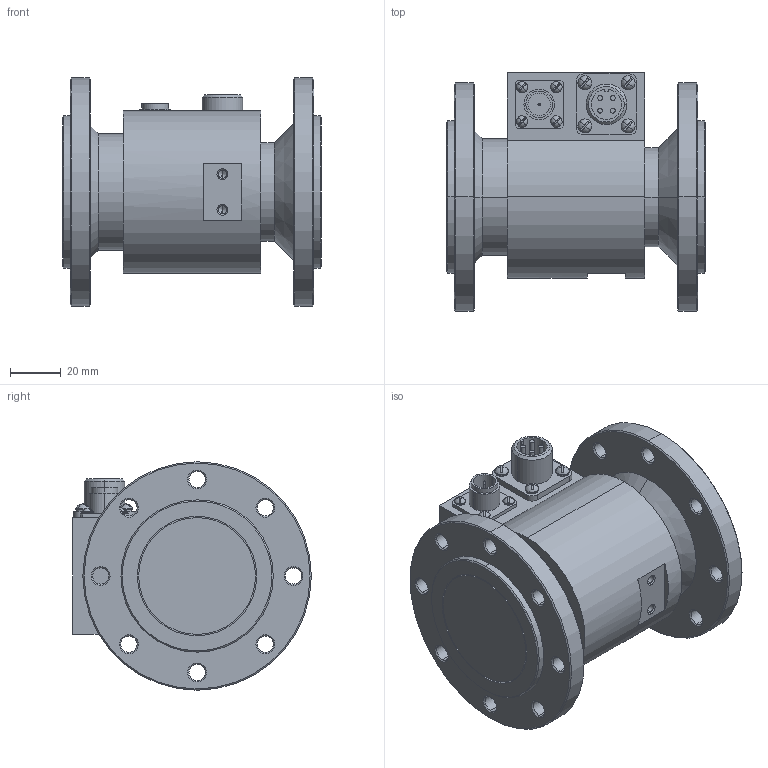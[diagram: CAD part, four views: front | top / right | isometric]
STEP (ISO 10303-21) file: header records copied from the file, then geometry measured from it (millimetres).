
FILE_DESCRIPTION (( 'STEP AP214' ), '1' );
FILE_NAME ('M20C-200.STEP', '2021-04-14T11:53:57', ( '砐錪賧瘔蠈錪 Windows' ), ( '' ), 'SwSTEP 2.0', 'SolidWorks 2019', '' );
FILE_SCHEMA (( 'AUTOMOTIVE_DESIGN' ));
Length unit declared in the file: millimetre
Products named in the file (1): M20C-200
Bounding box: 102 x 94 x 90 mm (x, y, z)
Volume: 369561.2 mm3; surface area: 59862.6 mm2
Topology: 1 solids, 3 shells, 398 faces, 920 edges, 568 vertices
Faces by surface type: cylinder 158, plane 122, cone 102, sphere 16
Entity records: 13894 total; most frequent: CARTESIAN_POINT 2367, DIRECTION 2106, ORIENTED_EDGE 1832, EDGE_CURVE 916, AXIS2_PLACEMENT_3D 867, VERTEX_POINT 568, EDGE_LOOP 494, CIRCLE 468
